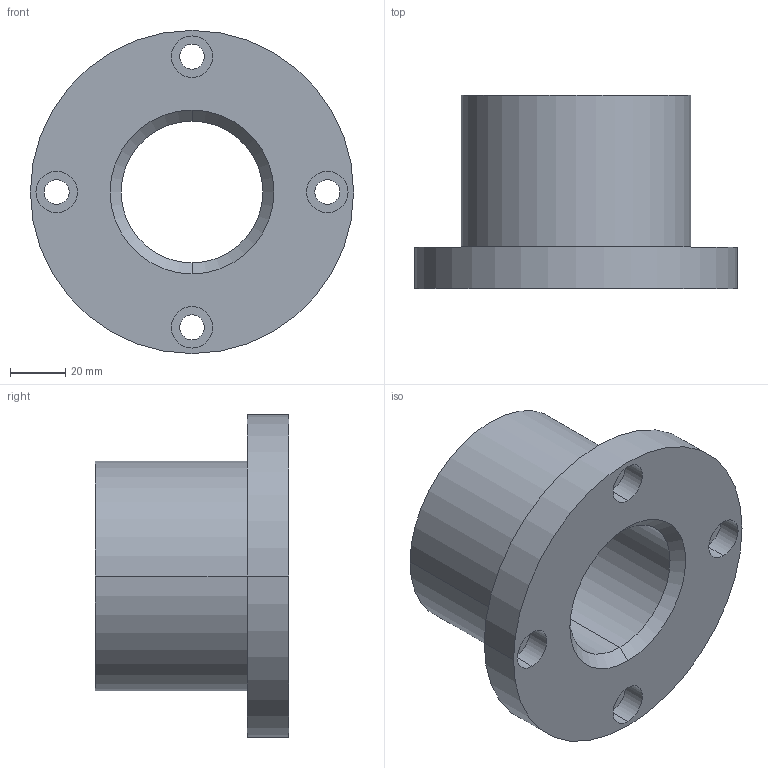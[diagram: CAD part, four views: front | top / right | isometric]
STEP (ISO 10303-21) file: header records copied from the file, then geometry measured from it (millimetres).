
FILE_DESCRIPTION (( 'STEP AP214' ), '1' );
FILE_NAME ('TH-60B.step', '2021-03-18T07:42:29', ( '' ), ( '' ), 'SwSTEP 2.0', 'SolidWorks 2019', '' );
FILE_SCHEMA (( 'AUTOMOTIVE_DESIGN' ));
Length unit declared in the file: millimetre
Products named in the file (2): TH-60B
Bounding box: 117 x 70 x 117 mm (x, y, z)
Volume: 303748.2 mm3; surface area: 49627.4 mm2
Topology: 1 solids, 1 shells, 33 faces, 74 edges, 48 vertices
Faces by surface type: cylinder 22, plane 7, cone 4
Entity records: 1013 total; most frequent: DIRECTION 192, CARTESIAN_POINT 157, ORIENTED_EDGE 148, AXIS2_PLACEMENT_3D 83, EDGE_CURVE 74, CIRCLE 48, VERTEX_POINT 48, EDGE_LOOP 48
